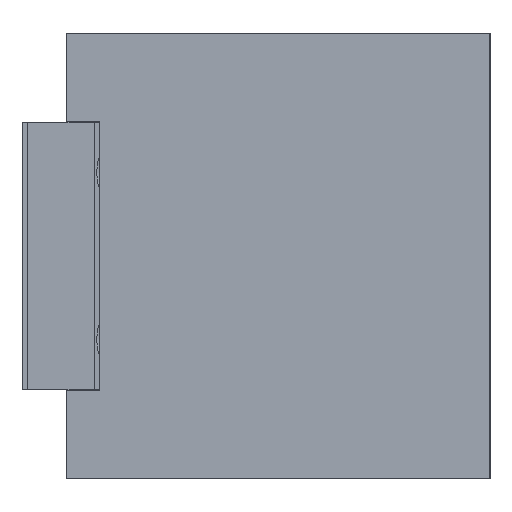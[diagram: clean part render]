
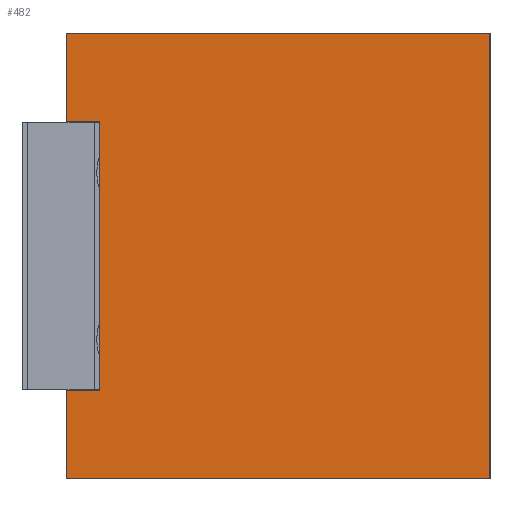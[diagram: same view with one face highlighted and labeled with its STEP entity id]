
A CAD part, left-side view. The second image highlights one B-rep face of the part: STEP entity #482.
In plain terms, the highlighted planar face has unit normal (-1, 0, 0).
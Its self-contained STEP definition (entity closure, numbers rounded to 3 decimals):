
#30 = LINE ( 'NONE', #3244, #187 ) ;
#81 = VERTEX_POINT ( 'NONE', #347 ) ;
#180 = ORIENTED_EDGE ( 'NONE', *, *, #2807, .T. ) ;
#187 = VECTOR ( 'NONE', #6067, 1000. ) ;
#259 = CARTESIAN_POINT ( 'NONE',  ( 0., 35., -7.9 ) ) ;
#347 = CARTESIAN_POINT ( 'NONE',  ( 0., 0., 0. ) ) ;
#423 = ORIENTED_EDGE ( 'NONE', *, *, #4833, .F. ) ;
#482 = ADVANCED_FACE ( 'NONE', ( #2974 ), #4454, .T. ) ;
#489 = VERTEX_POINT ( 'NONE', #3037 ) ;
#611 = VERTEX_POINT ( 'NONE', #4177 ) ;
#662 = EDGE_CURVE ( 'NONE', #489, #5609, #3353, .T. ) ;
#728 = AXIS2_PLACEMENT_3D ( 'NONE', #1582, #2057, #5394 ) ;
#792 = DIRECTION ( 'NONE',  ( 0., -1., 0. ) ) ;
#801 = DIRECTION ( 'NONE',  ( 0., -1., 0. ) ) ;
#839 = ORIENTED_EDGE ( 'NONE', *, *, #5224, .F. ) ;
#957 = VERTEX_POINT ( 'NONE', #1051 ) ;
#1032 = ORIENTED_EDGE ( 'NONE', *, *, #3350, .F. ) ;
#1051 = CARTESIAN_POINT ( 'NONE',  ( 0., 38., 0. ) ) ;
#1411 = CARTESIAN_POINT ( 'NONE',  ( 0., 35., -32.1 ) ) ;
#1449 = DIRECTION ( 'NONE',  ( 0., 0., 1. ) ) ;
#1482 = VECTOR ( 'NONE', #3124, 1000. ) ;
#1582 = CARTESIAN_POINT ( 'NONE',  ( 0., 0., -40. ) ) ;
#1768 = VECTOR ( 'NONE', #792, 1000. ) ;
#1909 = DIRECTION ( 'NONE',  ( 0., 0., 1. ) ) ;
#1980 = VECTOR ( 'NONE', #5640, 1000. ) ;
#2010 = VECTOR ( 'NONE', #1909, 1000. ) ;
#2039 = VERTEX_POINT ( 'NONE', #3554 ) ;
#2057 = DIRECTION ( 'NONE',  ( -1., 0., 0. ) ) ;
#2147 = EDGE_LOOP ( 'NONE', ( #3026, #423, #3521, #180, #839, #1032, #3170, #4683 ) ) ;
#2329 = CARTESIAN_POINT ( 'NONE',  ( 0., 38., -40. ) ) ;
#2428 = EDGE_CURVE ( 'NONE', #4300, #2039, #30, .T. ) ;
#2529 = LINE ( 'NONE', #2908, #3511 ) ;
#2790 = LINE ( 'NONE', #259, #1482 ) ;
#2807 = EDGE_CURVE ( 'NONE', #5609, #81, #2529, .T. ) ;
#2908 = CARTESIAN_POINT ( 'NONE',  ( 0., 0., -40. ) ) ;
#2974 = FACE_OUTER_BOUND ( 'NONE', #2147, .T. ) ;
#3026 = ORIENTED_EDGE ( 'NONE', *, *, #2428, .T. ) ;
#3037 = CARTESIAN_POINT ( 'NONE',  ( 0., 38., -40. ) ) ;
#3124 = DIRECTION ( 'NONE',  ( 0., 1., 0. ) ) ;
#3170 = ORIENTED_EDGE ( 'NONE', *, *, #5134, .F. ) ;
#3189 = CARTESIAN_POINT ( 'NONE',  ( 0., 0., 0. ) ) ;
#3244 = CARTESIAN_POINT ( 'NONE',  ( 0., 35., -32.1 ) ) ;
#3350 = EDGE_CURVE ( 'NONE', #5249, #957, #4530, .T. ) ;
#3353 = LINE ( 'NONE', #6031, #1768 ) ;
#3511 = VECTOR ( 'NONE', #1449, 1000. ) ;
#3521 = ORIENTED_EDGE ( 'NONE', *, *, #662, .T. ) ;
#3554 = CARTESIAN_POINT ( 'NONE',  ( 0., 38., -32.1 ) ) ;
#3609 = VECTOR ( 'NONE', #4756, 1000. ) ;
#3771 = CARTESIAN_POINT ( 'NONE',  ( 0., 35., -32.1 ) ) ;
#4177 = CARTESIAN_POINT ( 'NONE',  ( 0., 35., -7.9 ) ) ;
#4300 = VERTEX_POINT ( 'NONE', #3771 ) ;
#4306 = CARTESIAN_POINT ( 'NONE',  ( 0., 38., -40. ) ) ;
#4331 = EDGE_CURVE ( 'NONE', #4300, #611, #4419, .T. ) ;
#4419 = LINE ( 'NONE', #1411, #3609 ) ;
#4454 = PLANE ( 'NONE',  #728 ) ;
#4530 = LINE ( 'NONE', #2329, #1980 ) ;
#4683 = ORIENTED_EDGE ( 'NONE', *, *, #4331, .F. ) ;
#4756 = DIRECTION ( 'NONE',  ( 0., 0., 1. ) ) ;
#4833 = EDGE_CURVE ( 'NONE', #489, #2039, #5818, .T. ) ;
#5118 = CARTESIAN_POINT ( 'NONE',  ( 0., 38., -7.9 ) ) ;
#5134 = EDGE_CURVE ( 'NONE', #611, #5249, #2790, .T. ) ;
#5152 = LINE ( 'NONE', #3189, #5964 ) ;
#5224 = EDGE_CURVE ( 'NONE', #957, #81, #5152, .T. ) ;
#5249 = VERTEX_POINT ( 'NONE', #5118 ) ;
#5394 = DIRECTION ( 'NONE',  ( 0., 0., 1. ) ) ;
#5609 = VERTEX_POINT ( 'NONE', #5653 ) ;
#5640 = DIRECTION ( 'NONE',  ( 0., 0., 1. ) ) ;
#5653 = CARTESIAN_POINT ( 'NONE',  ( 0., 0., -40. ) ) ;
#5818 = LINE ( 'NONE', #4306, #2010 ) ;
#5964 = VECTOR ( 'NONE', #801, 1000. ) ;
#6031 = CARTESIAN_POINT ( 'NONE',  ( 0., 0., -40. ) ) ;
#6067 = DIRECTION ( 'NONE',  ( 0., 1., 0. ) ) ;
